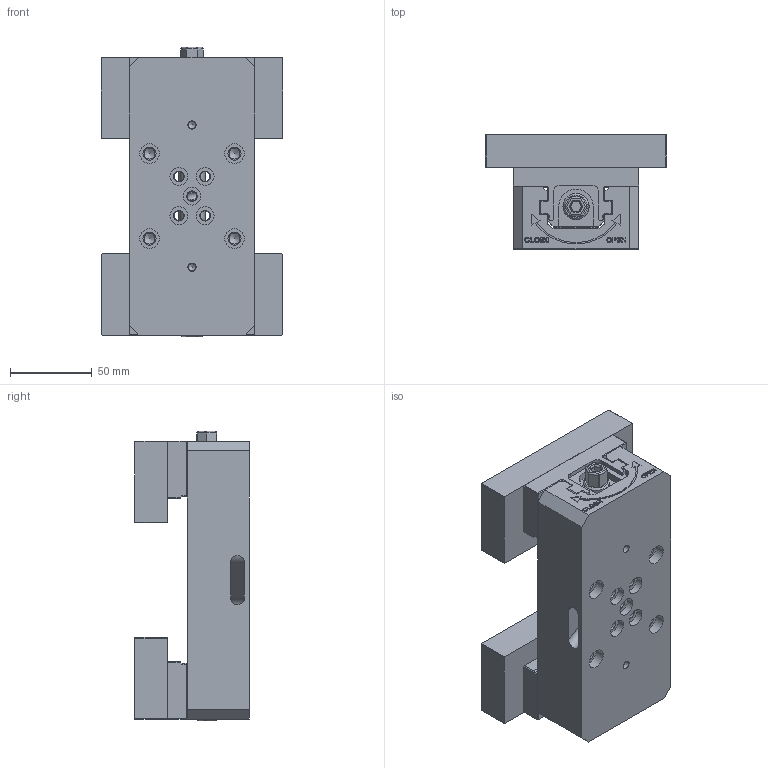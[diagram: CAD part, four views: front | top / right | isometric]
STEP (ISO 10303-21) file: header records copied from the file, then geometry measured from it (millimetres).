
FILE_DESCRIPTION(/* description */ (''),/* implementation_level */ '2;1');
FILE_NAME(/* name */ '',/* time_stamp */ '2022-05-30T13:58:16+08:00',/* author */ (''),/* organization */ (''),/* preprocessor_version */ 'ST-DEVELOPER v11',/* originating_system */ 'SIEMENS PLM Software NX 7.0',/* authorisation */ '');
FILE_SCHEMA (('CONFIG_CONTROL_DESIGN'));
Length unit declared in the file: millimetre
Products named in the file (1): Admi9CC5l4ig
Bounding box: 111 x 70 x 177 mm (x, y, z)
Volume: 653387.4 mm3; surface area: 142259.2 mm2
Topology: 7 solids, 7 shells, 684 faces, 1740 edges, 1120 vertices
Faces by surface type: plane 433, cylinder 160, cone 54, extrusion 18, bspline 16, torus 3
Full cylindrical faces by diameter (mm): 4.5 x2, 5 x12, 6 x13, 6.5 x13, 6.7 x4, 8 x14, 10.5 x8, 11 x5, 12 x4, 14 x2, 16 x2, 20 x2, 20.5 x1
Entity records: 23220 total; most frequent: CARTESIAN_POINT 7438, DIRECTION 3140, ORIENTED_EDGE 3066, EDGE_CURVE 1533, VECTOR 1102, LINE 1084, VERTEX_POINT 1057, AXIS2_PLACEMENT_3D 1019
